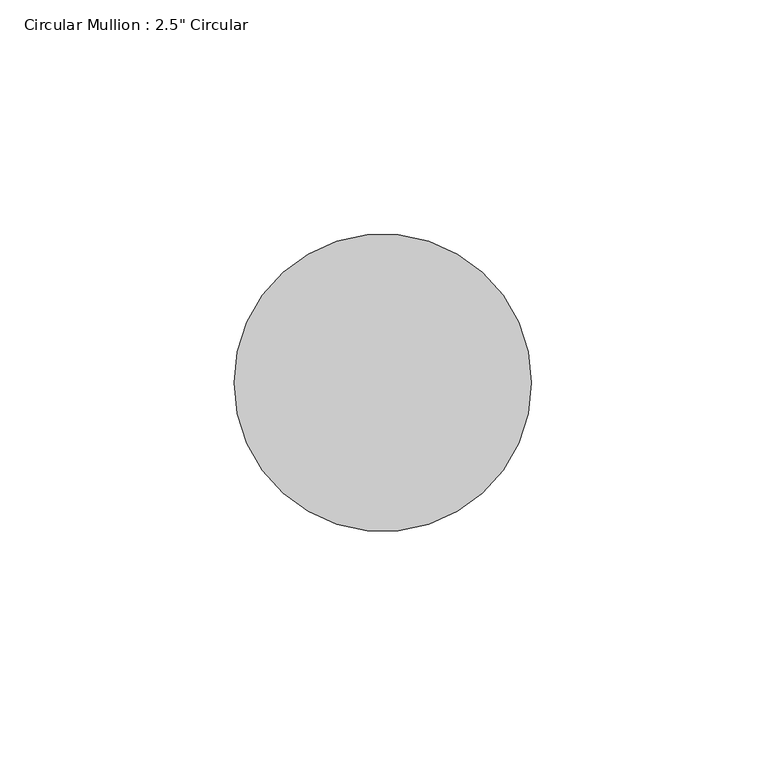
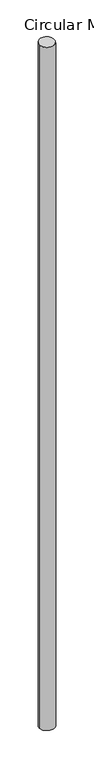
"""IFC4 building model written with IfcOpenShell, lengths in millimetres: member geometry."""

from ifc_helpers import new_model, si_unit, frame, origin, origin_with_axes, place, context, project, spatial, ellipse_curve, source, transform, mapped, element, save
from ifc_brep_helpers import plane_surface, cylinder_surface, advanced_brep


def member_e577d0a1(model_context):
    return source(origin(), model_context, "Body", "AdvancedBrep", [
        advanced_brep(
        [(-31.75, 0.0, -0.4929047), (31.75, 0.0, 0.4929047), (31.75, 0.0, -3041.0354745), (-31.75, 0.0, -3040.1590681)],
        [
            (0, 1, ellipse_curve(frame((0.0, 0.0, 0.0), z_axis=(0.01549686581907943, 0.057654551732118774, -0.9982163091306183), x_axis=(0.259111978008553, 0.9640004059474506, 0.05970092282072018)), 31.8067334, 31.75)),
            (1, 2),
            (2, 3, ellipse_curve(frame((0.0, 0.0, -3040.5972713), z_axis=(0.01377686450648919, 0.05833018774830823, 0.9982022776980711), x_axis=(-0.22944992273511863, -0.9714733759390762, 0.05993507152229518)), 31.8071805, 31.75)),
            (3, 0),
            (1, 0, ellipse_curve(frame((0.0, 0.0, 0.0), z_axis=(0.01549686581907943, 0.057654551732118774, -0.9982163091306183), x_axis=(0.259111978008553, 0.9640004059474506, 0.05970092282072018)), 31.8067334, 31.75)),
            (3, 2, ellipse_curve(frame((0.0, 0.0, -3040.5972713), z_axis=(0.01377686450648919, 0.05833018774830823, 0.9982022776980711), x_axis=(-0.22944992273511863, -0.9714733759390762, 0.05993507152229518)), 31.8071805, 31.75)),
        ],
        [
            cylinder_surface(origin_with_axes(), 31.75),
            plane_surface(frame((294.3523573, -79.1184538, 0.0), z_axis=(-0.01549686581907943, -0.057654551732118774, 0.9982163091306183), x_axis=(-0.25911197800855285, -0.9640004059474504, -0.05970092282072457))),
            plane_surface(frame((296.6383584, -70.062289, -3040.5972713), z_axis=(-0.01377686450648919, -0.05833018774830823, -0.9982022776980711), x_axis=(-0.22944992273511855, -0.9714733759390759, 0.05993507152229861))),
        ],
        [
            (0, [[1, 2, 3, 4]]),
            (0, [[5, -4, 6, -2]]),
            (1, [[-1, -5]]),
            (2, [[-6, -3]]),
        ],
    ),
    ])


if __name__ == "__main__":
    model = new_model("IFC4")
    model_context = context("Model", 3, world=origin())
    ifc_project = project(units=[si_unit("LENGTHUNIT", "METRE", prefix="MILLI")], contexts=[model_context])
    site = spatial("IfcSite", under=ifc_project)
    building = spatial("IfcBuilding", under=site)
    placement = place(None, origin())
    member_shape = member_e577d0a1(model_context)
    element("IfcMember", 1, ObjectType="Circular Mullion : 2.5\" Circular", at=placement, inside=building, context=model_context, shape_type="MappedRepresentation", body=[
        mapped(member_shape, transform((0.0, 0.0, 0.0), x_axis=(1.0, 0.0, 0.0), y_axis=(0.0, 1.0, 0.0), z_axis=(0.0, 0.0, 1.0))),
    ])
    save(model, "model.ifc")
